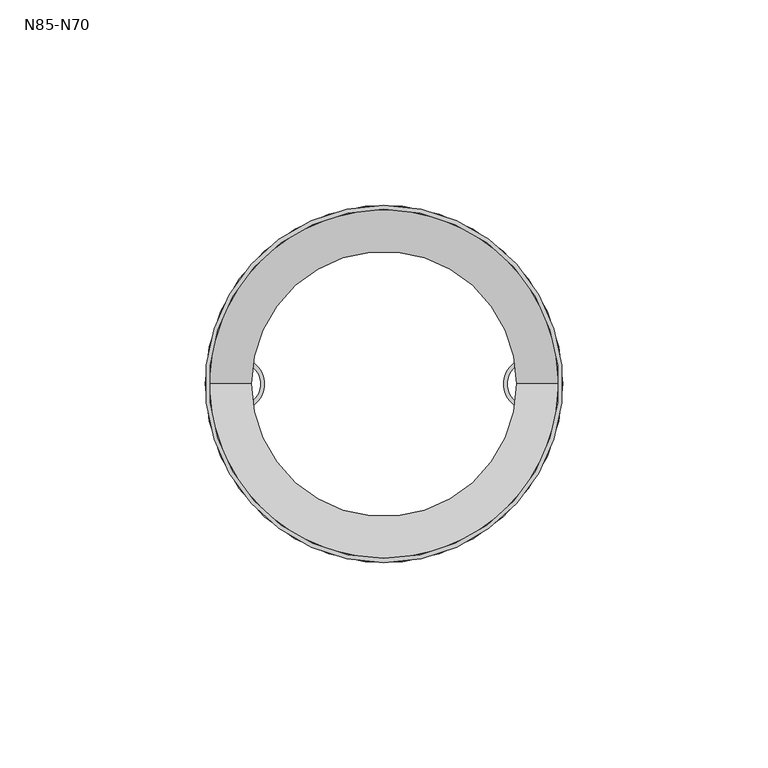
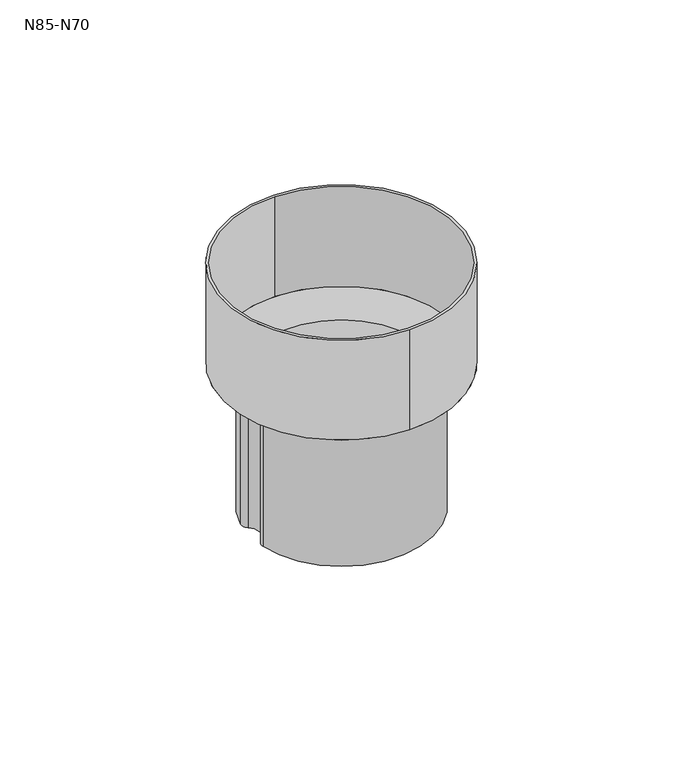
"""IFC4 building model written with IfcOpenShell, lengths in millimetres: proxy geometry, GROVIK_Downpipe_Connector : N85-N70."""

from ifc_helpers import new_model, si_unit, point, frame, frame_2d, origin, origin_with_axes, origin_2d, place, context, project, spatial, polyline, circle_curve, trimmed, segment, composite_curve, outline, extrude, source, transform, mapped, element, save
from ifc_brep_helpers import plane_surface, revolved_surface, advanced_brep


def n85_n70_14b80355(model_context):
    return source(origin(), model_context, "Body", "SolidModel", [
        extrude(outline(composite_curve([segment(trimmed(circle_curve(origin_2d(), 43.5), [point((0.0, 43.5))], [point((0.0, -43.5))], False, "CARTESIAN"), True, "CONTINUOUS"), segment(trimmed(circle_curve(origin_2d(), 43.5), [point((0.0, -43.5))], [point((0.0, 43.5))], False, "CARTESIAN"), True, "CONTINUOUS")], self_intersect=False), holes=[composite_curve([segment(trimmed(circle_curve(origin_2d(), 42.5), [point((0.0, 42.5))], [point((0.0, -42.5))], True, "CARTESIAN"), True, "CONTINUOUS"), segment(trimmed(circle_curve(origin_2d(), 42.5), [point((0.0, -42.5))], [point((0.0, 42.5))], True, "CARTESIAN"), True, "CONTINUOUS")], self_intersect=False)]), frame((0.0, 0.0, 6.0), z_axis=(0.0, 0.0, 1.0), x_axis=(1.0, 0.0, 0.0)), (0.0, 0.0, 1.0), 39.0),
        advanced_brep(
        [(-43.5, 0.0, 6.0), (43.5, 0.0, 6.0), (42.5, 0.0, 6.0), (-42.5, 0.0, 6.0), (-33.3, 0.0, 0.0), (33.3, 0.0, 0.0), (-32.3, 0.0, 0.0), (32.3, 0.0, 0.0)],
        [
            (0, 1, circle_curve(frame((0.0, 0.0, 6.0), z_axis=(0.0, 0.0, 1.0), x_axis=(-1.0, 0.0, 0.0)), 43.5)),
            (1, 0, circle_curve(frame((0.0, 0.0, 6.0), z_axis=(0.0, 0.0, 1.0), x_axis=(1.0, 0.0, 0.0)), 43.5)),
            (2, 3, circle_curve(frame((0.0, 0.0, 6.0), z_axis=(0.0, 0.0, -1.0), x_axis=(-1.0, 0.0, 0.0)), 42.5)),
            (3, 2, circle_curve(frame((0.0, 0.0, 6.0), z_axis=(0.0, 0.0, -1.0), x_axis=(1.0, 0.0, 0.0)), 42.5)),
            (4, 5, circle_curve(frame((0.0, 0.0, 0.0), z_axis=(0.0, 0.0, -1.0), x_axis=(1.0, 0.0, 0.0)), 33.3)),
            (5, 4, circle_curve(frame((0.0, 0.0, 0.0), z_axis=(0.0, 0.0, -1.0), x_axis=(-1.0, 0.0, 0.0)), 33.3)),
            (6, 7, circle_curve(frame((0.0, 0.0, 0.0), z_axis=(0.0, 0.0, 1.0), x_axis=(-1.0, 0.0, 0.0)), 32.3)),
            (7, 6, circle_curve(origin_with_axes(), 32.3)),
            (0, 4),
            (5, 1),
            (6, 3),
            (2, 7),
        ],
        [
            plane_surface(frame((0.0, 0.0, 6.0), z_axis=(0.0, 0.0, 1.0), x_axis=(0.0, -1.0, 0.0))),
            plane_surface(frame((0.0, 0.0, 0.0), z_axis=(0.0, 0.0, -1.0), x_axis=(0.0, -1.0, 0.0))),
            revolved_surface(polyline([(33.30000000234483, 0.0, 0.0), (43.5, 0.0, 6.0)]), (0.0, 0.0, -19.5882353), (0.0, 0.0, 1.0)),
            revolved_surface(polyline([(-33.30000000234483, 0.0, 0.0), (-43.5, 0.0, 6.0)]), (0.0, 0.0, -19.5882353), (0.0, 0.0, 1.0)),
            revolved_surface(polyline([(-42.5, 0.0, 6.0), (-32.3, 0.0, 0.0)]), (0.0, 0.0, -19.0), (0.0, 0.0, 1.0)),
        ],
        [
            (0, [[1, 2], [3, 4]]),
            (1, [[5, 6], [7, 8]]),
            (2, [[-1, 9, -6, 10]]),
            (3, [[-2, -10, -5, -9]]),
            (4, [[11, -3, 12, -7]]),
            (4, [[-11, -8, -12, -4]]),
        ],
    ),
        extrude(outline(composite_curve([segment(trimmed(circle_curve(origin_2d(), 34.0), [point((-33.2289031, 7.2))], [point((33.2289031, 7.2))], False, "CARTESIAN"), True, "CONTINUOUS"), segment(trimmed(circle_curve(frame_2d((30.1934466, 6.6504209)), 3.0848069), [point((33.2289031, 7.2))], [point((32.0721698, 4.2037022))], False, "CARTESIAN"), True, "CONTINUOUS"), segment(trimmed(circle_curve(frame_2d((35.3, 0.0)), 5.3), [point((32.0721698, 4.2037022))], [point((32.0749594, -4.2058428))], True, "CARTESIAN"), True, "CONTINUOUS"), segment(trimmed(circle_curve(frame_2d((30.203401, -6.6465812)), 3.0757007), [point((32.0749594, -4.2058428))], [point((33.2289031, -7.2))], False, "CARTESIAN"), True, "CONTINUOUS"), segment(trimmed(circle_curve(origin_2d(), 34.0), [point((33.2289031, -7.2))], [point((-33.2289031, -7.2))], False, "CARTESIAN"), True, "CONTINUOUS"), segment(trimmed(circle_curve(frame_2d((-30.203401, -6.6465812)), 3.0757007), [point((-33.2289031, -7.2))], [point((-32.0749594, -4.2058428))], False, "CARTESIAN"), True, "CONTINUOUS"), segment(trimmed(circle_curve(frame_2d((-35.3, 0.0)), 5.3), [point((-32.0749594, -4.2058428))], [point((-32.0721698, 4.2037022))], True, "CARTESIAN"), True, "CONTINUOUS"), segment(trimmed(circle_curve(frame_2d((-30.1934466, 6.6504209)), 3.0848069), [point((-32.0721698, 4.2037022))], [point((-33.2289031, 7.2))], False, "CARTESIAN"), True, "CONTINUOUS")], self_intersect=False), holes=[composite_curve([segment(trimmed(circle_curve(frame_2d((-30.1934466, 6.6504209)), 2.0848069), [point((-32.2071275, 7.1903364))], [point((-31.4631452, 4.9968535))], True, "CARTESIAN"), True, "CONTINUOUS"), segment(trimmed(circle_curve(frame_2d((-35.3, 0.0)), 6.3), [point((-31.4631452, 4.9968535))], [point((-31.4664612, -4.999398))], False, "CARTESIAN"), True, "CONTINUOUS"), segment(trimmed(circle_curve(frame_2d((-30.203401, -6.6465812)), 2.0757007), [point((-31.4664612, -4.999398))], [point((-32.2096516, -7.1790209))], True, "CARTESIAN"), True, "CONTINUOUS"), segment(trimmed(circle_curve(origin_2d(), 33.0), [point((-32.2096516, -7.1790209))], [point((32.2096516, -7.1790209))], True, "CARTESIAN"), True, "CONTINUOUS"), segment(trimmed(circle_curve(frame_2d((30.203401, -6.6465812)), 2.0757007), [point((32.2096516, -7.1790209))], [point((31.4664612, -4.999398))], True, "CARTESIAN"), True, "CONTINUOUS"), segment(trimmed(circle_curve(frame_2d((35.3, 0.0)), 6.3), [point((31.4664612, -4.999398))], [point((31.4631452, 4.9968535))], False, "CARTESIAN"), True, "CONTINUOUS"), segment(trimmed(circle_curve(frame_2d((30.1934466, 6.6504209)), 2.0848069), [point((31.4631452, 4.9968535))], [point((32.2071275, 7.1903364))], True, "CARTESIAN"), True, "CONTINUOUS"), segment(trimmed(circle_curve(origin_2d(), 33.0), [point((32.2071275, 7.1903364))], [point((-32.2071275, 7.1903364))], True, "CARTESIAN"), True, "CONTINUOUS")], self_intersect=False)]), frame((0.0, 0.0, -50.0), z_axis=(0.0, 0.0, 1.0), x_axis=(1.0, 0.0, 0.0)), (0.0, 0.0, 1.0), 50.0),
    ])


if __name__ == "__main__":
    model = new_model("IFC4")
    model_context = context("Model", 3, world=origin())
    ifc_project = project(units=[si_unit("LENGTHUNIT", "METRE", prefix="MILLI")], contexts=[model_context])
    site = spatial("IfcSite", under=ifc_project)
    building = spatial("IfcBuilding", under=site)
    placement = place(None, origin())
    n85_n70_shape = n85_n70_14b80355(model_context)
    element("IfcBuildingElementProxy", 1, Name="GROVIK_Downpipe_Connector : N85-N70", ObjectType="GROVIK_Downpipe_Connector : N85-N70", at=placement, inside=building, context=model_context, shape_type="MappedRepresentation", body=[
        mapped(n85_n70_shape, transform((0.0, 0.0, 0.0), x_axis=(1.0, 0.0, 0.0), y_axis=(0.0, 1.0, 0.0), z_axis=(0.0, 0.0, 1.0))),
    ])
    save(model, "model.ifc")
